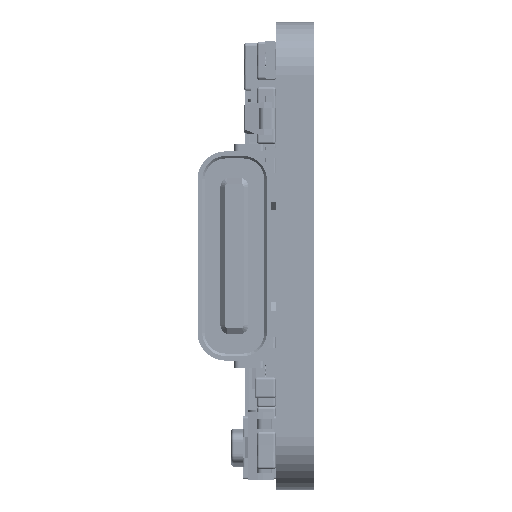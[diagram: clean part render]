
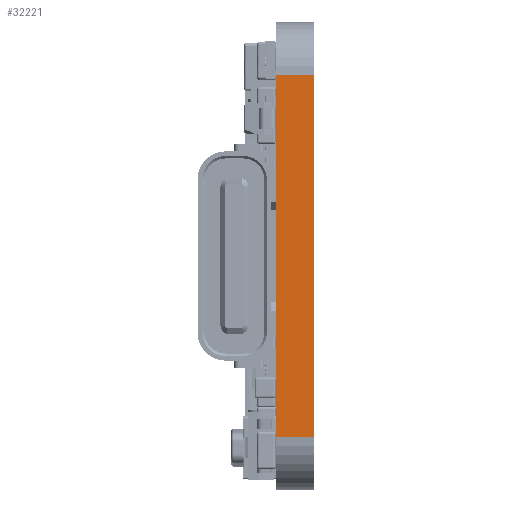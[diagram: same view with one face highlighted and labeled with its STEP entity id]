
A CAD part, left-side view. The second image highlights one B-rep face of the part: STEP entity #32221.
In plain terms, the highlighted planar face has unit normal (-1, 0, 0).
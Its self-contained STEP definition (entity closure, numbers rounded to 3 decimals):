
#32221 = ADVANCED_FACE ( 'NONE', ( #38000 ), #46473, .T. ) ;
#38000 = FACE_OUTER_BOUND ( 'NONE', #355179, .T. ) ;
#46349 = CARTESIAN_POINT ( 'NONE',  ( 100., -1.6, -117.75 ) ) ;
#46473 = PLANE ( 'NONE',  #392694 ) ;
#46477 = DIRECTION ( 'NONE',  ( -1., 0., 0. ) ) ;
#46486 = DIRECTION ( 'NONE',  ( 0., 0., 1. ) ) ;
#48606 = VECTOR ( 'NONE', #79916, 1000. ) ;
#48868 = LINE ( 'NONE', #80068, #48606 ) ;
#68363 = EDGE_CURVE ( 'NONE', #228755, #314041, #361866, .T. ) ;
#68411 = EDGE_CURVE ( 'NONE', #228862, #313827, #361959, .T. ) ;
#79916 = DIRECTION ( 'NONE',  ( 0., 0., 1. ) ) ;
#80068 = CARTESIAN_POINT ( 'NONE',  ( 100., 0., -117.75 ) ) ;
#90905 = CARTESIAN_POINT ( 'NONE',  ( 100., 0., -102.25 ) ) ;
#91449 = CARTESIAN_POINT ( 'NONE',  ( 100., 0., -117.75 ) ) ;
#126790 = EDGE_CURVE ( 'NONE', #314041, #313827, #48868, .T. ) ;
#131087 = EDGE_CURVE ( 'NONE', #228755, #228862, #282060, .T. ) ;
#158297 = ORIENTED_EDGE ( 'NONE', *, *, #126790, .F. ) ;
#158403 = ORIENTED_EDGE ( 'NONE', *, *, #68411, .T. ) ;
#158435 = ORIENTED_EDGE ( 'NONE', *, *, #131087, .T. ) ;
#158457 = ORIENTED_EDGE ( 'NONE', *, *, #68363, .F. ) ;
#228755 = VERTEX_POINT ( 'NONE', #231128 ) ;
#228862 = VERTEX_POINT ( 'NONE', #231264 ) ;
#231128 = CARTESIAN_POINT ( 'NONE',  ( 100., -1.6, -117.75 ) ) ;
#231264 = CARTESIAN_POINT ( 'NONE',  ( 100., -1.6, -102.25 ) ) ;
#282060 = LINE ( 'NONE', #284012, #282114 ) ;
#282114 = VECTOR ( 'NONE', #284016, 1000. ) ;
#284012 = CARTESIAN_POINT ( 'NONE',  ( 100., -1.6, -117.75 ) ) ;
#284016 = DIRECTION ( 'NONE',  ( 0., 0., 1. ) ) ;
#313827 = VERTEX_POINT ( 'NONE', #90905 ) ;
#314041 = VERTEX_POINT ( 'NONE', #91449 ) ;
#355179 = EDGE_LOOP ( 'NONE', ( #158297, #158457, #158435, #158403 ) ) ;
#361832 = VECTOR ( 'NONE', #372337, 1000. ) ;
#361866 = LINE ( 'NONE', #372042, #361870 ) ;
#361870 = VECTOR ( 'NONE', #372010, 1000. ) ;
#361959 = LINE ( 'NONE', #372324, #361832 ) ;
#372010 = DIRECTION ( 'NONE',  ( 0., 1., 0. ) ) ;
#372042 = CARTESIAN_POINT ( 'NONE',  ( 100., -1.6, -117.75 ) ) ;
#372324 = CARTESIAN_POINT ( 'NONE',  ( 100., -1.6, -102.25 ) ) ;
#372337 = DIRECTION ( 'NONE',  ( 0., 1., 0. ) ) ;
#392694 = AXIS2_PLACEMENT_3D ( 'NONE', #46349, #46477, #46486 ) ;
